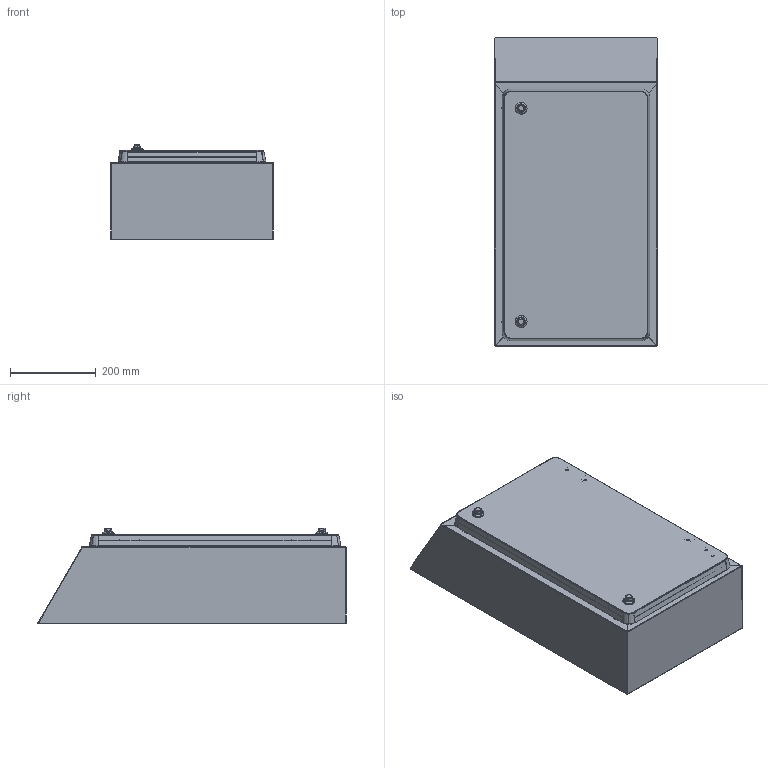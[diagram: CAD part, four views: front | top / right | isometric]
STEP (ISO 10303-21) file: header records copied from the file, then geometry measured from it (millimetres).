
FILE_DESCRIPTION (( 'STEP AP214' ), '1' );
FILE_NAME ('IP-H603821_stp.step', '2025-05-08T03:44:16', ( '' ), ( '' ), 'SwSTEP 2.0', 'SolidWorks 2023', '' );
FILE_SCHEMA (( 'AUTOMOTIVE_DESIGN' ));
Length unit declared in the file: millimetre
Products named in the file (1): IP-H603821_stp
Bounding box: 380.2 x 719.74 x 223.12 mm (x, y, z)
Volume: 2041041.8 mm3; surface area: 2475985.1 mm2
Topology: 77 solids, 77 shells, 3132 faces, 6946 edges, 4002 vertices
Faces by surface type: cylinder 860, plane 838, torus 788, cone 544, bspline 102
Entity records: 102977 total; most frequent: CARTESIAN_POINT 32383, DIRECTION 15686, ORIENTED_EDGE 13892, EDGE_CURVE 6946, AXIS2_PLACEMENT_3D 6417, VERTEX_POINT 4002, CIRCLE 3386, EDGE_LOOP 3294
